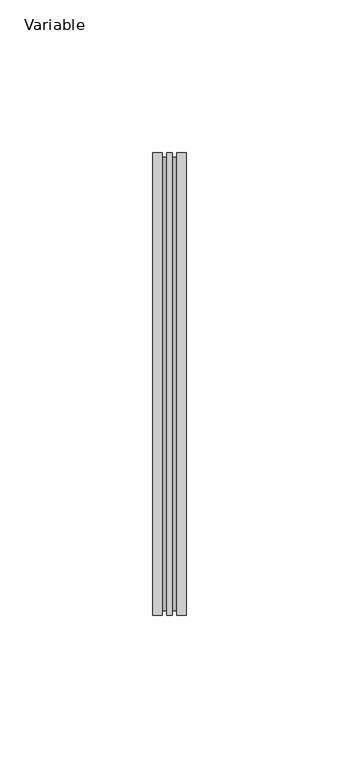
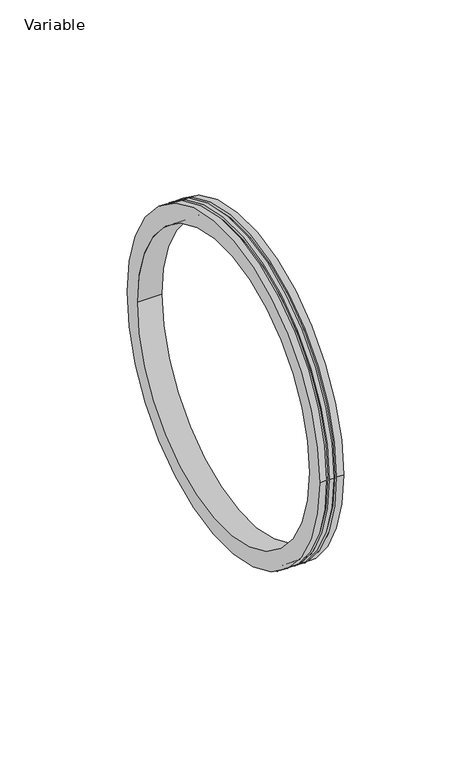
"""IFC4 building model written with IfcOpenShell, lengths in millimetres: pipe fitting geometry, AliaxisFR_Friaphon_EPDMGasket_FR : Variable."""

from ifc_helpers import new_model, si_unit, frame, origin, place, context, project, spatial, polyline, circle_curve, source, transform, mapped, element, save
from ifc_brep_helpers import plane_surface, cylinder_surface, revolved_surface, advanced_brep


def variable_edae023d(model_context):
    return source(origin(), model_context, "Body", "AdvancedBrep", [
        advanced_brep(
        [(5.5, -75.8, 0.0), (5.5, 75.8, 0.0), (5.5, -67.5, 0.0), (5.5, 67.5, 0.0), (-5.5, -75.8, 0.0), (-5.5, 75.8, 0.0), (-5.5, -67.5, 0.0), (-5.5, 67.5, 0.0), (2.3663702, -75.8, 0.0), (2.3663702, 75.8, 0.0), (-2.3663702, 75.8, 0.0), (-2.3663702, -75.8, 0.0), (-0.8836298, -75.8, 0.0), (-0.8836298, 75.8, 0.0), (0.8836298, 75.8, 0.0), (0.8836298, -75.8, 0.0), (-0.8836298, -74.3, 0.0), (-0.8836298, 74.3, 0.0), (-2.3663702, -74.3, 0.0), (-2.3663702, 74.3, 0.0), (2.3663702, -74.3, 0.0), (2.3663702, 74.3, 0.0), (0.8836298, -74.3, 0.0), (0.8836298, 74.3, 0.0)],
        [
            (0, 1, circle_curve(frame((5.5, 0.0, 0.0), z_axis=(1.0, 0.0, 0.0), x_axis=(0.0, 1.0, 0.0)), 75.8)),
            (1, 0, circle_curve(frame((5.5, 0.0, 0.0), z_axis=(1.0, 0.0, 0.0), x_axis=(0.0, 1.0, 0.0)), 75.8)),
            (2, 3, circle_curve(frame((5.5, 0.0, 0.0), z_axis=(-1.0, 0.0, 0.0), x_axis=(0.0, 1.0, 0.0)), 67.5)),
            (3, 2, circle_curve(frame((5.5, 0.0, 0.0), z_axis=(-1.0, 0.0, 0.0), x_axis=(0.0, 1.0, 0.0)), 67.5)),
            (4, 5, circle_curve(frame((-5.5, 0.0, 0.0), z_axis=(-1.0, 0.0, 0.0), x_axis=(0.0, 1.0, 0.0)), 75.8)),
            (5, 4, circle_curve(frame((-5.5, 0.0, 0.0), z_axis=(-1.0, 0.0, 0.0), x_axis=(0.0, 1.0, 0.0)), 75.8)),
            (6, 7, circle_curve(frame((-5.5, 0.0, 0.0), z_axis=(1.0, 0.0, 0.0), x_axis=(0.0, 1.0, 0.0)), 67.5)),
            (7, 6, circle_curve(frame((-5.5, 0.0, 0.0), z_axis=(1.0, 0.0, 0.0), x_axis=(0.0, 1.0, 0.0)), 67.5)),
            (0, 8),
            (8, 9, circle_curve(frame((2.3663702, 0.0, 0.0), z_axis=(1.0, 0.0, 0.0), x_axis=(0.0, 1.0, 0.0)), 75.8)),
            (9, 1),
            (5, 10),
            (10, 11, circle_curve(frame((-2.3663702, 0.0, 0.0), z_axis=(-1.0, 0.0, 0.0), x_axis=(0.0, 1.0, 0.0)), 75.8)),
            (11, 4),
            (12, 13, circle_curve(frame((-0.8836298, 0.0, 0.0), z_axis=(1.0, 0.0, 0.0), x_axis=(0.0, 1.0, 0.0)), 75.8)),
            (13, 14),
            (14, 15, circle_curve(frame((0.8836298, 0.0, 0.0), z_axis=(-1.0, 0.0, 0.0), x_axis=(0.0, 1.0, 0.0)), 75.8)),
            (15, 12),
            (9, 8, circle_curve(frame((2.3663702, 0.0, 0.0), z_axis=(1.0, 0.0, 0.0), x_axis=(0.0, 1.0, 0.0)), 75.8)),
            (11, 10, circle_curve(frame((-2.3663702, 0.0, 0.0), z_axis=(-1.0, 0.0, 0.0), x_axis=(0.0, 1.0, 0.0)), 75.8)),
            (13, 12, circle_curve(frame((-0.8836298, 0.0, 0.0), z_axis=(1.0, 0.0, 0.0), x_axis=(0.0, 1.0, 0.0)), 75.8)),
            (15, 14, circle_curve(frame((0.8836298, 0.0, 0.0), z_axis=(-1.0, 0.0, 0.0), x_axis=(0.0, 1.0, 0.0)), 75.8)),
            (2, 6),
            (7, 3),
            (16, 17, circle_curve(frame((-0.8836298, 0.0, 0.0), z_axis=(1.0, 0.0, 0.0), x_axis=(0.0, 1.0, 0.0)), 74.3)),
            (17, 16, circle_curve(frame((-0.8836298, 0.0, 0.0), z_axis=(1.0, 0.0, 0.0), x_axis=(0.0, 1.0, 0.0)), 74.3)),
            (18, 19, circle_curve(frame((-2.3663702, 0.0, 0.0), z_axis=(-1.0, 0.0, 0.0), x_axis=(0.0, 1.0, 0.0)), 74.3)),
            (19, 18, circle_curve(frame((-2.3663702, 0.0, 0.0), z_axis=(-1.0, 0.0, 0.0), x_axis=(0.0, 1.0, 0.0)), 74.3)),
            (17, 19),
            (18, 16),
            (20, 21, circle_curve(frame((2.3663702, 0.0, 0.0), z_axis=(1.0, 0.0, 0.0), x_axis=(0.0, 1.0, 0.0)), 74.3)),
            (21, 20, circle_curve(frame((2.3663702, 0.0, 0.0), z_axis=(1.0, 0.0, 0.0), x_axis=(0.0, 1.0, 0.0)), 74.3)),
            (22, 23, circle_curve(frame((0.8836298, 0.0, 0.0), z_axis=(-1.0, 0.0, 0.0), x_axis=(0.0, 1.0, 0.0)), 74.3)),
            (23, 22, circle_curve(frame((0.8836298, 0.0, 0.0), z_axis=(-1.0, 0.0, 0.0), x_axis=(0.0, 1.0, 0.0)), 74.3)),
            (21, 23),
            (22, 20),
        ],
        [
            plane_surface(frame((5.5, 75.8, 0.0), z_axis=(1.0, 0.0, 0.0), x_axis=(0.0, 0.0, 1.0))),
            plane_surface(frame((-5.5, 75.8, 0.0), z_axis=(-1.0, 0.0, 0.0), x_axis=(0.0, 0.0, -1.0))),
            cylinder_surface(frame((-5.5, 0.0, 0.0), z_axis=(1.0, 0.0, 0.0), x_axis=(0.0, 1.0, 0.0)), 75.8),
            revolved_surface(polyline([(-5.5, 67.5, 0.0), (5.5, 67.5, 0.0)]), (0.0, 0.0, 0.0), (-1.0, 0.0, 0.0)),
            plane_surface(frame((-0.8836298, 75.8, 0.0), z_axis=(-1.0, 0.0, 0.0), x_axis=(0.0, 0.0, 1.0))),
            plane_surface(frame((-2.3663702, 75.8, 0.0), z_axis=(1.0, 0.0, 0.0), x_axis=(0.0, 0.0, -1.0))),
            cylinder_surface(frame((0.0, 0.0, 0.0), z_axis=(-1.0, 0.0, 0.0), x_axis=(0.0, 1.0, 0.0)), 74.3),
            plane_surface(frame((2.3663702, 75.8, 0.0), z_axis=(-1.0, 0.0, 0.0), x_axis=(0.0, 0.0, 1.0))),
            plane_surface(frame((0.8836298, 75.8, 0.0), z_axis=(1.0, 0.0, 0.0), x_axis=(0.0, 0.0, -1.0))),
        ],
        [
            (0, [[1, 2], [3, 4]]),
            (1, [[5, 6], [7, 8]]),
            (2, [[-1, 9, 10, 11]]),
            (2, [[-6, 12, 13, 14]]),
            (2, [[15, 16, 17, 18]]),
            (2, [[-2, -11, 19, -9]]),
            (2, [[-5, -14, 20, -12]]),
            (2, [[21, -18, 22, -16]]),
            (3, [[-3, 23, -8, 24]]),
            (3, [[-4, -24, -7, -23]]),
            (4, [[-15, -21], [25, 26]]),
            (5, [[-13, -20], [27, 28]]),
            (6, [[-26, 29, -27, 30]]),
            (6, [[-25, -30, -28, -29]]),
            (7, [[-10, -19], [31, 32]]),
            (8, [[-17, -22], [33, 34]]),
            (6, [[-32, 35, -33, 36]]),
            (6, [[-31, -36, -34, -35]]),
        ],
    ),
    ])


if __name__ == "__main__":
    model = new_model("IFC4")
    model_context = context("Model", 3, world=origin())
    ifc_project = project(units=[si_unit("LENGTHUNIT", "METRE", prefix="MILLI")], contexts=[model_context])
    site = spatial("IfcSite", under=ifc_project)
    building = spatial("IfcBuilding", under=site)
    placement = place(None, origin())
    variable_shape = variable_edae023d(model_context)
    element("IfcPipeFitting", 1, ObjectType="AliaxisFR_Friaphon_EPDMGasket_FR : Variable", at=placement, inside=building, context=model_context, shape_type="MappedRepresentation", body=[
        mapped(variable_shape, transform((0.0, 0.0, 0.0), x_axis=(1.0, 0.0, 0.0), y_axis=(0.0, 1.0, 0.0), z_axis=(0.0, 0.0, 1.0))),
    ])
    save(model, "model.ifc")
